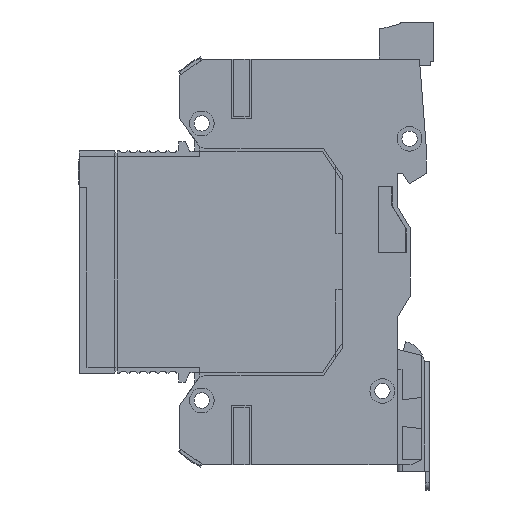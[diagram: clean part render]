
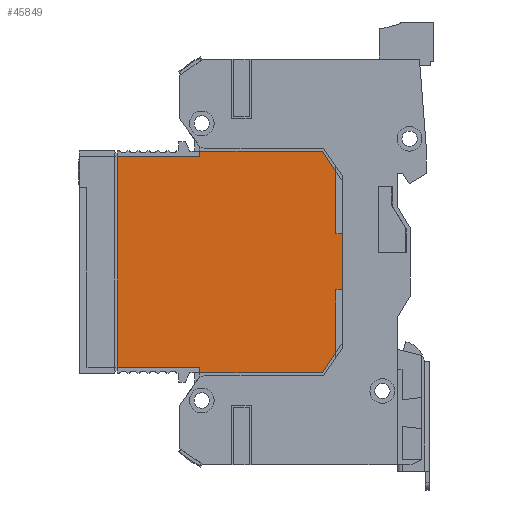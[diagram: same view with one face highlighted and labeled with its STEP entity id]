
A CAD part, left-side view. The second image highlights one B-rep face of the part: STEP entity #45849.
In plain terms, the highlighted planar face has unit normal (-1, 0, 0) as drawn and (0, -1, 0) by its records, which use the part's own axes.
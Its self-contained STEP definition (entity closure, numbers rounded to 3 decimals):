
#568 = EDGE_LOOP ( 'NONE', ( #15547, #45140, #95604, #53273, #55805, #85546, #110923, #47453, #9969, #1165, #59402, #48513, #63962, #76956 ) ) ;
#1165 = ORIENTED_EDGE ( 'NONE', *, *, #112025, .T. ) ;
#1671 = LINE ( 'NONE', #109462, #102339 ) ;
#2187 = DIRECTION ( 'NONE',  ( -1., 0., 0. ) ) ;
#2991 = CARTESIAN_POINT ( 'NONE',  ( -21.3, 0., -19.05 ) ) ;
#3301 = LINE ( 'NONE', #107010, #70974 ) ;
#3662 = EDGE_CURVE ( 'NONE', #90603, #85225, #1671, .T. ) ;
#4733 = EDGE_CURVE ( 'NONE', #85922, #75158, #85699, .T. ) ;
#5796 = EDGE_CURVE ( 'NONE', #34793, #39446, #78538, .T. ) ;
#6744 = VECTOR ( 'NONE', #2187, 1000. ) ;
#7300 = DIRECTION ( 'NONE',  ( 0.835, 0., -0.55 ) ) ;
#7798 = CARTESIAN_POINT ( 'NONE',  ( 5.65, 0., 26.55 ) ) ;
#9969 = ORIENTED_EDGE ( 'NONE', *, *, #77076, .T. ) ;
#10314 = VERTEX_POINT ( 'NONE', #36156 ) ;
#11298 = CARTESIAN_POINT ( 'NONE',  ( 5.65, 0., 25.15 ) ) ;
#11516 = EDGE_CURVE ( 'NONE', #34793, #85922, #75441, .T. ) ;
#13911 = VECTOR ( 'NONE', #90933, 1000. ) ;
#15547 = ORIENTED_EDGE ( 'NONE', *, *, #68392, .F. ) ;
#16942 = VECTOR ( 'NONE', #74080, 1000. ) ;
#17630 = CARTESIAN_POINT ( 'NONE',  ( 21.3, 0., -19.05 ) ) ;
#18833 = CARTESIAN_POINT ( 'NONE',  ( -5.65, 0., 26.55 ) ) ;
#19178 = LINE ( 'NONE', #18833, #6744 ) ;
#19385 = LINE ( 'NONE', #106153, #78727 ) ;
#26355 = CARTESIAN_POINT ( 'NONE',  ( 0., 0., 0. ) ) ;
#27520 = PLANE ( 'NONE',  #34065 ) ;
#28262 = DIRECTION ( 'NONE',  ( 0., 0., -1. ) ) ;
#34065 = AXIS2_PLACEMENT_3D ( 'NONE', #26355, #62937, #80709 ) ;
#34290 = CARTESIAN_POINT ( 'NONE',  ( 22.4, 0., 22.45 ) ) ;
#34793 = VERTEX_POINT ( 'NONE', #11298 ) ;
#34849 = CARTESIAN_POINT ( 'NONE',  ( -21.3, 0., -2.35 ) ) ;
#36156 = CARTESIAN_POINT ( 'NONE',  ( 22.4, 0., -2.35 ) ) ;
#37460 = LINE ( 'NONE', #2991, #13911 ) ;
#37633 = DIRECTION ( 'NONE',  ( 1., 0., 0. ) ) ;
#38510 = CARTESIAN_POINT ( 'NONE',  ( -22.4, 0., -2.35 ) ) ;
#39446 = VERTEX_POINT ( 'NONE', #7798 ) ;
#40739 = CARTESIAN_POINT ( 'NONE',  ( -22.4, 0., 22.45 ) ) ;
#42722 = LINE ( 'NONE', #72895, #95092 ) ;
#44400 = LINE ( 'NONE', #82295, #109077 ) ;
#45140 = ORIENTED_EDGE ( 'NONE', *, *, #61330, .F. ) ;
#45606 = VERTEX_POINT ( 'NONE', #34849 ) ;
#45835 = DIRECTION ( 'NONE',  ( 0., 0., -1. ) ) ;
#45849 = ADVANCED_FACE ( 'NONE', ( #70870 ), #27520, .F. ) ;
#46118 = EDGE_CURVE ( 'NONE', #78152, #10314, #70756, .T. ) ;
#47403 = DIRECTION ( 'NONE',  ( 0., 0., 1. ) ) ;
#47419 = EDGE_CURVE ( 'NONE', #85225, #79899, #75976, .T. ) ;
#47453 = ORIENTED_EDGE ( 'NONE', *, *, #5796, .T. ) ;
#47700 = CARTESIAN_POINT ( 'NONE',  ( -5.65, 0., 25.15 ) ) ;
#48513 = ORIENTED_EDGE ( 'NONE', *, *, #3662, .F. ) ;
#48876 = EDGE_CURVE ( 'NONE', #109820, #45606, #44400, .T. ) ;
#50066 = CARTESIAN_POINT ( 'NONE',  ( 18.3, 0., 25.15 ) ) ;
#50419 = DIRECTION ( 'NONE',  ( 1., 0., 0. ) ) ;
#51540 = EDGE_CURVE ( 'NONE', #78152, #110591, #97275, .T. ) ;
#51820 = CARTESIAN_POINT ( 'NONE',  ( -21.3, 0., 25.15 ) ) ;
#51908 = DIRECTION ( 'NONE',  ( 0., 0., 1. ) ) ;
#53273 = ORIENTED_EDGE ( 'NONE', *, *, #46118, .T. ) ;
#54759 = VECTOR ( 'NONE', #50419, 1000. ) ;
#55376 = VECTOR ( 'NONE', #47403, 1000. ) ;
#55805 = ORIENTED_EDGE ( 'NONE', *, *, #94740, .F. ) ;
#56181 = CARTESIAN_POINT ( 'NONE',  ( -5.65, 0., 26.55 ) ) ;
#56709 = LINE ( 'NONE', #38510, #55376 ) ;
#59402 = ORIENTED_EDGE ( 'NONE', *, *, #47419, .F. ) ;
#61088 = DIRECTION ( 'NONE',  ( 0., 0., 1. ) ) ;
#61330 = EDGE_CURVE ( 'NONE', #110591, #67509, #37460, .T. ) ;
#62526 = CARTESIAN_POINT ( 'NONE',  ( 21.3, 0., -2.35 ) ) ;
#62937 = DIRECTION ( 'NONE',  ( 0., 1., 0. ) ) ;
#63962 = ORIENTED_EDGE ( 'NONE', *, *, #102821, .F. ) ;
#67095 = CARTESIAN_POINT ( 'NONE',  ( -21.3, 0., -19.05 ) ) ;
#67509 = VERTEX_POINT ( 'NONE', #67095 ) ;
#68315 = CARTESIAN_POINT ( 'NONE',  ( -18.3, 0., 25.15 ) ) ;
#68392 = EDGE_CURVE ( 'NONE', #67509, #45606, #19385, .T. ) ;
#69675 = DIRECTION ( 'NONE',  ( 0., 0., -1. ) ) ;
#70041 = CARTESIAN_POINT ( 'NONE',  ( 21.3, 0., -25.15 ) ) ;
#70756 = LINE ( 'NONE', #84462, #16942 ) ;
#70870 = FACE_OUTER_BOUND ( 'NONE', #568, .T. ) ;
#70974 = VECTOR ( 'NONE', #45835, 1000. ) ;
#71009 = CARTESIAN_POINT ( 'NONE',  ( -22.4, 0., -2.35 ) ) ;
#72895 = CARTESIAN_POINT ( 'NONE',  ( 22.4, 0., -2.35 ) ) ;
#73622 = VERTEX_POINT ( 'NONE', #56181 ) ;
#73879 = VECTOR ( 'NONE', #69675, 1000. ) ;
#74080 = DIRECTION ( 'NONE',  ( 1., 0., 0. ) ) ;
#75158 = VERTEX_POINT ( 'NONE', #34290 ) ;
#75441 = LINE ( 'NONE', #103138, #54759 ) ;
#75976 = LINE ( 'NONE', #51820, #110410 ) ;
#76956 = ORIENTED_EDGE ( 'NONE', *, *, #48876, .T. ) ;
#77076 = EDGE_CURVE ( 'NONE', #39446, #73622, #19178, .T. ) ;
#78152 = VERTEX_POINT ( 'NONE', #62526 ) ;
#78538 = LINE ( 'NONE', #95812, #112968 ) ;
#78727 = VECTOR ( 'NONE', #61088, 1000. ) ;
#79899 = VERTEX_POINT ( 'NONE', #47700 ) ;
#80709 = DIRECTION ( 'NONE',  ( 0., 0., 1. ) ) ;
#82295 = CARTESIAN_POINT ( 'NONE',  ( -21.3, 0., -2.35 ) ) ;
#83687 = DIRECTION ( 'NONE',  ( 0.835, 0., 0.55 ) ) ;
#84462 = CARTESIAN_POINT ( 'NONE',  ( 21.3, 0., -2.35 ) ) ;
#85225 = VERTEX_POINT ( 'NONE', #68315 ) ;
#85546 = ORIENTED_EDGE ( 'NONE', *, *, #4733, .F. ) ;
#85699 = LINE ( 'NONE', #101373, #110432 ) ;
#85922 = VERTEX_POINT ( 'NONE', #50066 ) ;
#90603 = VERTEX_POINT ( 'NONE', #40739 ) ;
#90933 = DIRECTION ( 'NONE',  ( -1., 0., 0. ) ) ;
#94740 = EDGE_CURVE ( 'NONE', #75158, #10314, #42722, .T. ) ;
#95092 = VECTOR ( 'NONE', #28262, 1000. ) ;
#95604 = ORIENTED_EDGE ( 'NONE', *, *, #51540, .F. ) ;
#95812 = CARTESIAN_POINT ( 'NONE',  ( 5.65, 0., 25.15 ) ) ;
#97275 = LINE ( 'NONE', #70041, #73879 ) ;
#101373 = CARTESIAN_POINT ( 'NONE',  ( 22.4, 0., 22.45 ) ) ;
#102339 = VECTOR ( 'NONE', #83687, 1000. ) ;
#102821 = EDGE_CURVE ( 'NONE', #109820, #90603, #56709, .T. ) ;
#103138 = CARTESIAN_POINT ( 'NONE',  ( -21.3, 0., 25.15 ) ) ;
#106153 = CARTESIAN_POINT ( 'NONE',  ( -21.3, 0., -25.15 ) ) ;
#107010 = CARTESIAN_POINT ( 'NONE',  ( -5.65, 0., 25.15 ) ) ;
#109077 = VECTOR ( 'NONE', #37633, 1000. ) ;
#109462 = CARTESIAN_POINT ( 'NONE',  ( -22.4, 0., 22.45 ) ) ;
#109820 = VERTEX_POINT ( 'NONE', #71009 ) ;
#110410 = VECTOR ( 'NONE', #113432, 1000. ) ;
#110432 = VECTOR ( 'NONE', #7300, 1000. ) ;
#110591 = VERTEX_POINT ( 'NONE', #17630 ) ;
#110923 = ORIENTED_EDGE ( 'NONE', *, *, #11516, .F. ) ;
#112025 = EDGE_CURVE ( 'NONE', #73622, #79899, #3301, .T. ) ;
#112968 = VECTOR ( 'NONE', #51908, 1000. ) ;
#113432 = DIRECTION ( 'NONE',  ( 1., 0., 0. ) ) ;
